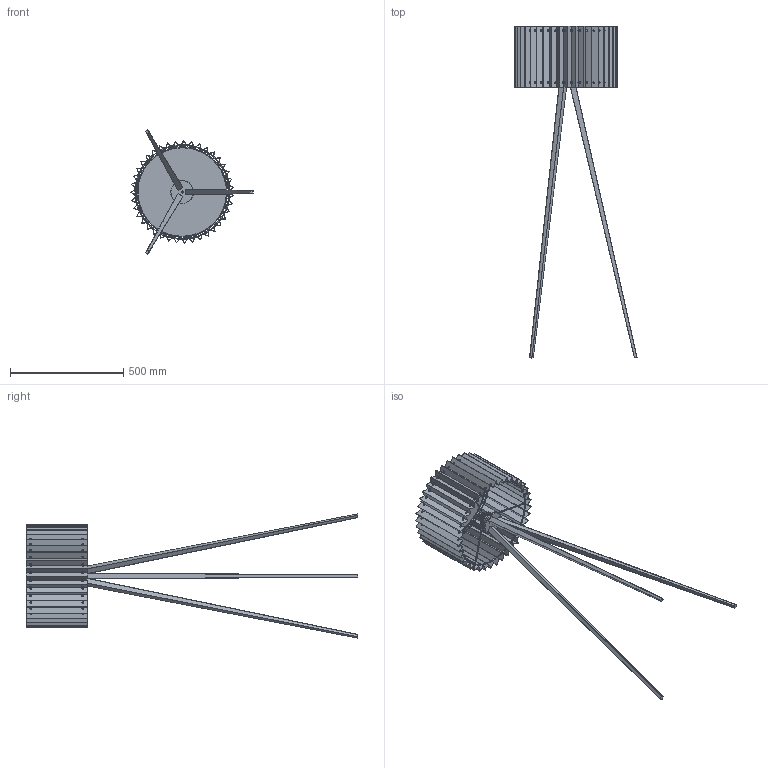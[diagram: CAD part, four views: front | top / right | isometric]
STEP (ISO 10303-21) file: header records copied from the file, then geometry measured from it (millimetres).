
FILE_DESCRIPTION (( 'STEP AP214' ), '1' );
FILE_NAME ('DIRA_P1185.STEP', '2026-01-12T11:35:48', ( '' ), ( '' ), 'SwSTEP 2.0', 'SolidWorks 2023', '' );
FILE_SCHEMA (( 'AUTOMOTIVE_DESIGN' ));
Length unit declared in the file: millimetre
Products named in the file (12): CO-223017WFC.STEP; ____1-0.STEP; ____7.STEP; ____8.STEP; ______.STEP; ____4.STEP; ____6.STEP; ____1.STEP; DIRA_P1185; ____5.STEP; ____2.STEP; ____3.STEP
Assembly tree (20 placements, depth 3):
  DIRA_P1185
    CO-223017WFC.STEP
      ____2.STEP
      ____1.STEP  x3
      ______.STEP  x6
      ____3.STEP
      ____1-0.STEP
      ____4.STEP
      ____5.STEP
      ____8.STEP  x3
      ____6.STEP
      ____7.STEP
Bounding box: 540.27 x 1466.75 x 548.97 mm (x, y, z)
Volume: 1041011.1 mm3; surface area: 2146162 mm2
Topology: 32 solids, 32 shells, 1013 faces, 2657 edges, 1730 vertices
Faces by surface type: cylinder 536, plane 341, torus 110, bspline 18, cone 8
Entity records: 28523 total; most frequent: CARTESIAN_POINT 7164, DIRECTION 4625, ORIENTED_EDGE 4132, EDGE_CURVE 2066, AXIS2_PLACEMENT_3D 1805, VERTEX_POINT 1346, EDGE_LOOP 1130, VECTOR 1015
